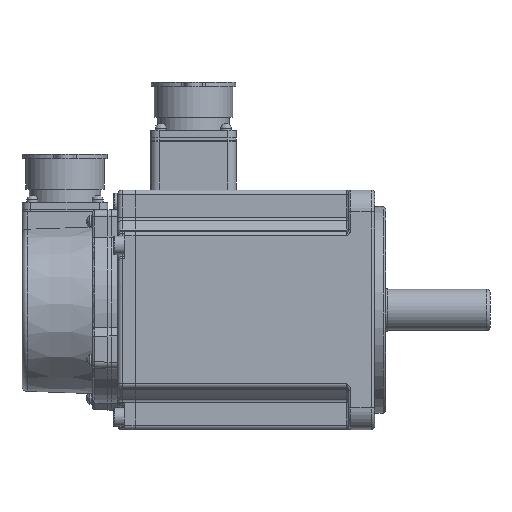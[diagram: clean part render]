
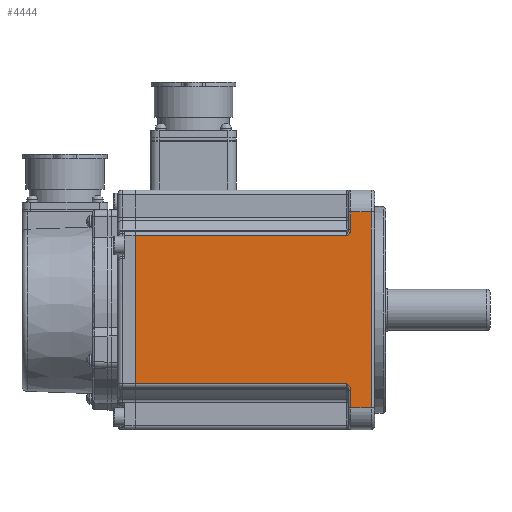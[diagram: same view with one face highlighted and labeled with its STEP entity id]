
A CAD part, left-side view. The second image highlights one B-rep face of the part: STEP entity #4444.
In plain terms, the highlighted planar face has unit normal (-1, 0, 0).
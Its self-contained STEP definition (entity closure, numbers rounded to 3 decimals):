
#898=LINE('',#26765,#1823);
#958=LINE('',#27077,#1883);
#959=LINE('',#27081,#1884);
#960=LINE('',#27102,#1885);
#961=LINE('',#27104,#1886);
#962=LINE('',#27106,#1887);
#963=LINE('',#27108,#1888);
#964=LINE('',#27110,#1889);
#1823=VECTOR('',#20917,1.);
#1883=VECTOR('',#21095,1.);
#1884=VECTOR('',#21100,1.);
#1885=VECTOR('',#21101,1.);
#1886=VECTOR('',#21102,1.);
#1887=VECTOR('',#21103,1.);
#1888=VECTOR('',#21104,1.);
#1889=VECTOR('',#21105,1.);
#2573=B_SPLINE_CURVE_WITH_KNOTS('',3,(#27082,#27083,#27084,#27085,#27086,
#27087,#27088,#27089,#27090,#27091,#27092,#27093,#27094,#27095,#27096,#27097,
#27098,#27099,#27100),.UNSPECIFIED.,.F.,.F.,(4,3,3,3,3,3,4),(0.,0.002,
0.104,0.205,0.569,0.789,
1.),.UNSPECIFIED.);
#2574=B_SPLINE_CURVE_WITH_KNOTS('',3,(#27112,#27113,#27114,#27115,#27116,
#27117,#27118,#27119,#27120,#27121,#27122,#27123,#27124,#27125,#27126,#27127,
#27128,#27129,#27130),.UNSPECIFIED.,.F.,.F.,(4,3,3,3,3,3,4),(0.,0.211,
0.431,0.795,0.896,0.998,
1.),.UNSPECIFIED.);
#3025=FACE_OUTER_BOUND('',#6571,.T.);
#4444=ADVANCED_FACE('',(#3025),#5350,.T.);
#5350=PLANE('',#17792);
#6571=EDGE_LOOP('',(#9030,#9031,#9032,#9033,#9034,#9035,#9036,#9037,#9038,
#9039));
#9030=ORIENTED_EDGE('',*,*,#14416,.T.);
#9031=ORIENTED_EDGE('',*,*,#14418,.F.);
#9032=ORIENTED_EDGE('',*,*,#14315,.T.);
#9033=ORIENTED_EDGE('',*,*,#14419,.T.);
#9034=ORIENTED_EDGE('',*,*,#14420,.T.);
#9035=ORIENTED_EDGE('',*,*,#14421,.T.);
#9036=ORIENTED_EDGE('',*,*,#14422,.T.);
#9037=ORIENTED_EDGE('',*,*,#14423,.T.);
#9038=ORIENTED_EDGE('',*,*,#14424,.T.);
#9039=ORIENTED_EDGE('',*,*,#14425,.T.);
#12603=VERTEX_POINT('',#26766);
#12604=VERTEX_POINT('',#26767);
#12681=VERTEX_POINT('',#27076);
#12682=VERTEX_POINT('',#27078);
#12683=VERTEX_POINT('',#27101);
#12684=VERTEX_POINT('',#27103);
#12685=VERTEX_POINT('',#27105);
#12686=VERTEX_POINT('',#27107);
#12687=VERTEX_POINT('',#27109);
#12688=VERTEX_POINT('',#27111);
#14315=EDGE_CURVE('',#12603,#12604,#898,.T.);
#14416=EDGE_CURVE('',#12682,#12681,#958,.T.);
#14418=EDGE_CURVE('',#12603,#12681,#959,.T.);
#14419=EDGE_CURVE('',#12604,#12683,#2573,.T.);
#14420=EDGE_CURVE('',#12683,#12684,#960,.T.);
#14421=EDGE_CURVE('',#12684,#12685,#961,.T.);
#14422=EDGE_CURVE('',#12685,#12686,#962,.T.);
#14423=EDGE_CURVE('',#12686,#12687,#963,.T.);
#14424=EDGE_CURVE('',#12687,#12688,#964,.T.);
#14425=EDGE_CURVE('',#12688,#12682,#2574,.T.);
#17792=AXIS2_PLACEMENT_3D('',#27131,#21106,#21107);
#20917=DIRECTION('',(0.,-1.,0.));
#21095=DIRECTION('',(0.,1.,0.));
#21100=DIRECTION('',(0.,0.,1.));
#21101=DIRECTION('',(0.,0.,-1.));
#21102=DIRECTION('',(0.,-1.,0.));
#21103=DIRECTION('',(0.,0.,1.));
#21104=DIRECTION('',(0.,1.,0.));
#21105=DIRECTION('',(0.,0.,-1.));
#21106=DIRECTION('',(-1.,0.,0.));
#21107=DIRECTION('',(0.,0.,-1.));
#26765=CARTESIAN_POINT('',(-149.876,218.222,-125.192));
#26766=CARTESIAN_POINT('',(-149.876,313.922,-125.192));
#26767=CARTESIAN_POINT('',(-149.876,216.922,-125.192));
#27076=CARTESIAN_POINT('',(-149.876,313.922,-57.192));
#27077=CARTESIAN_POINT('',(-149.876,218.222,-57.192));
#27078=CARTESIAN_POINT('',(-149.876,216.922,-57.192));
#27081=CARTESIAN_POINT('',(-149.876,313.922,-91.192));
#27082=CARTESIAN_POINT('',(-149.876,216.922,-125.192));
#27083=CARTESIAN_POINT('',(-149.876,216.92,-125.194));
#27084=CARTESIAN_POINT('',(-149.876,216.917,-125.196));
#27085=CARTESIAN_POINT('',(-149.876,216.915,-125.197));
#27086=CARTESIAN_POINT('',(-149.876,216.815,-125.268));
#27087=CARTESIAN_POINT('',(-149.876,216.715,-125.339));
#27088=CARTESIAN_POINT('',(-149.876,216.616,-125.411));
#27089=CARTESIAN_POINT('',(-149.876,216.517,-125.482));
#27090=CARTESIAN_POINT('',(-149.876,216.419,-125.555));
#27091=CARTESIAN_POINT('',(-149.876,216.323,-125.631));
#27092=CARTESIAN_POINT('',(-149.876,215.98,-125.899));
#27093=CARTESIAN_POINT('',(-149.876,215.654,-126.204));
#27094=CARTESIAN_POINT('',(-149.876,215.406,-126.562));
#27095=CARTESIAN_POINT('',(-149.876,215.255,-126.78));
#27096=CARTESIAN_POINT('',(-149.876,215.13,-127.019));
#27097=CARTESIAN_POINT('',(-149.876,215.046,-127.271));
#27098=CARTESIAN_POINT('',(-149.876,214.966,-127.511));
#27099=CARTESIAN_POINT('',(-149.876,214.922,-127.767));
#27100=CARTESIAN_POINT('',(-149.876,214.922,-128.021));
#27101=CARTESIAN_POINT('',(-149.876,214.922,-128.021));
#27102=CARTESIAN_POINT('',(-149.876,214.922,-127.192));
#27103=CARTESIAN_POINT('',(-149.876,214.922,-136.192));
#27104=CARTESIAN_POINT('',(-149.876,203.922,-136.192));
#27105=CARTESIAN_POINT('',(-149.876,205.422,-136.192));
#27106=CARTESIAN_POINT('',(-149.876,205.422,-46.192));
#27107=CARTESIAN_POINT('',(-149.876,205.422,-46.192));
#27108=CARTESIAN_POINT('',(-149.876,203.922,-46.192));
#27109=CARTESIAN_POINT('',(-149.876,214.922,-46.192));
#27110=CARTESIAN_POINT('',(-149.876,214.922,-127.192));
#27111=CARTESIAN_POINT('',(-149.876,214.922,-54.364));
#27112=CARTESIAN_POINT('',(-149.876,214.922,-54.364));
#27113=CARTESIAN_POINT('',(-149.876,214.922,-54.617));
#27114=CARTESIAN_POINT('',(-149.876,214.966,-54.873));
#27115=CARTESIAN_POINT('',(-149.876,215.046,-55.114));
#27116=CARTESIAN_POINT('',(-149.876,215.13,-55.365));
#27117=CARTESIAN_POINT('',(-149.876,215.255,-55.605));
#27118=CARTESIAN_POINT('',(-149.876,215.406,-55.822));
#27119=CARTESIAN_POINT('',(-149.876,215.654,-56.18));
#27120=CARTESIAN_POINT('',(-149.876,215.98,-56.485));
#27121=CARTESIAN_POINT('',(-149.876,216.323,-56.754));
#27122=CARTESIAN_POINT('',(-149.876,216.419,-56.829));
#27123=CARTESIAN_POINT('',(-149.876,216.517,-56.902));
#27124=CARTESIAN_POINT('',(-149.876,216.616,-56.974));
#27125=CARTESIAN_POINT('',(-149.876,216.715,-57.046));
#27126=CARTESIAN_POINT('',(-149.876,216.815,-57.116));
#27127=CARTESIAN_POINT('',(-149.876,216.915,-57.187));
#27128=CARTESIAN_POINT('',(-149.876,216.917,-57.189));
#27129=CARTESIAN_POINT('',(-149.876,216.92,-57.19));
#27130=CARTESIAN_POINT('',(-149.876,216.922,-57.192));
#27131=CARTESIAN_POINT('',(-149.876,218.222,-127.192));
